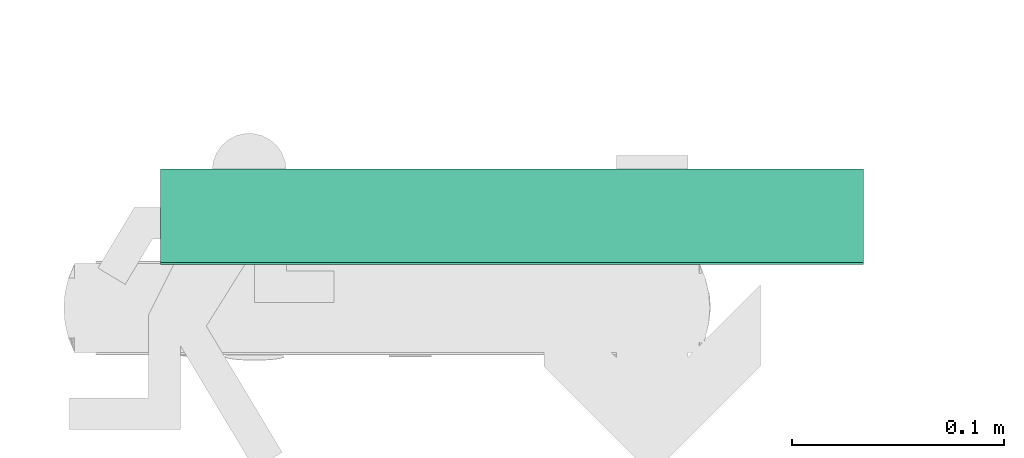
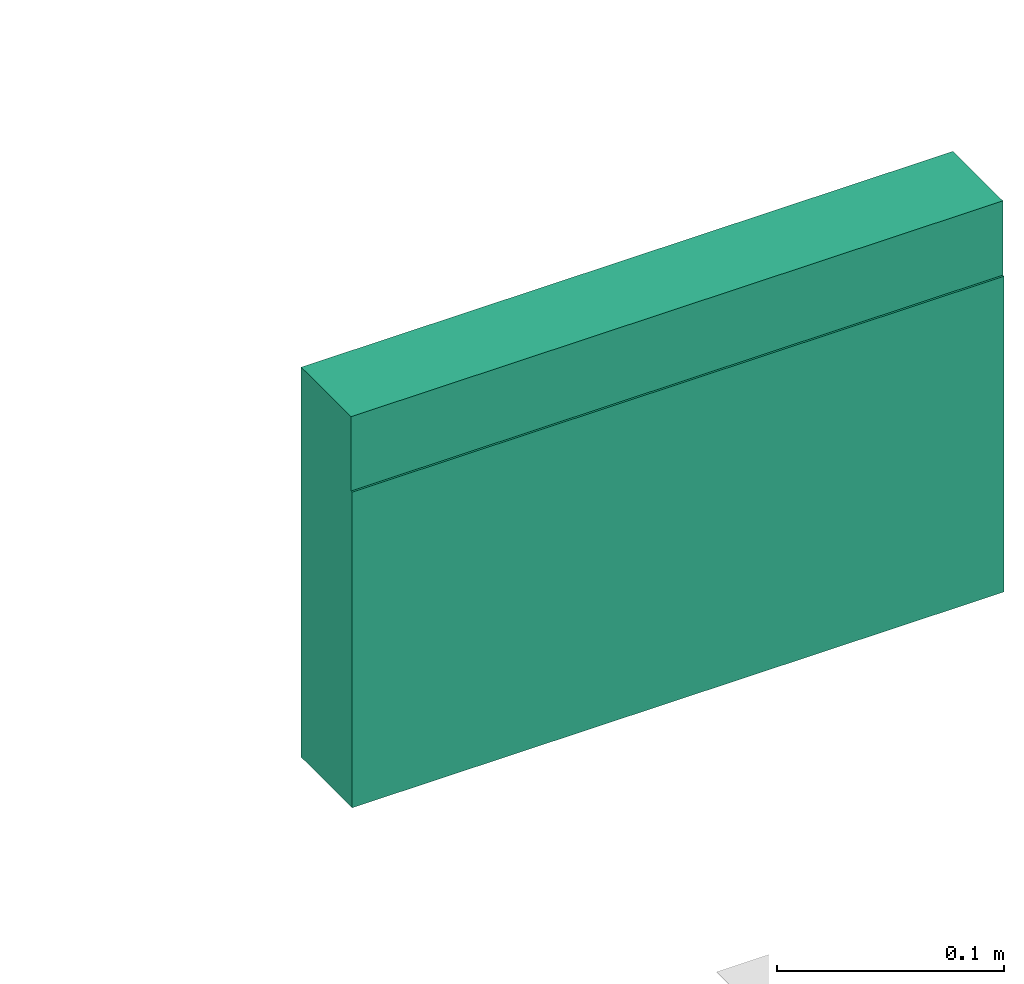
# One storey, part 1 of 2: 1 flow terminal.
"""IFC2X3 building model written with IfcOpenShell, lengths in millimetres."""

import ifcopenshell
import ifcopenshell.guid

model = None  # the IFC model being written
_history = None  # IfcOwnerHistory: only IFC2X3 demands one
_inside = {}  # id of a spatial element -> (the spatial element, [elements in it])
_under = {}  # id of a project, library or spatial element -> (it, [spatial elements below it])
_declared = {}  # id of a project -> (the project, [libraries it declares])
_typed = {}  # id of a type object -> (the type object, [elements of that type])
_made_of = {}  # id of a material, layer set ... -> (it, [elements and type objects made of it])


def new_model(schema):
    """Start an empty IFC model of exactly this schema.

    Asked for "IFC4X3", IfcOpenShell would pick the latest addendum, in which some entities
    have other attributes; the version numbers below select the first issue.
    IFC2X3 requires an IfcOwnerHistory on every rooted entity: one is made here for all.
    """
    global model, _history
    if schema == "IFC4X3":
        model = ifcopenshell.file(schema_version=(4, 3, 0, 0))
    else:
        model = ifcopenshell.file(schema=schema)
    _inside.clear()
    _under.clear()
    _declared.clear()
    _typed.clear()
    _made_of.clear()
    _history = None
    if model.schema == "IFC2X3":
        org = make("IfcOrganization", Name="unknown")
        user = make(
            "IfcPersonAndOrganization",
            ThePerson=make("IfcPerson", FamilyName="unknown"),
            TheOrganization=org,
        )
        app = make(
            "IfcApplication",
            ApplicationDeveloper=org,
            Version="unknown",
            ApplicationFullName="unknown",
            ApplicationIdentifier="unknown",
        )
        _history = make(
            "IfcOwnerHistory",
            OwningUser=user,
            OwningApplication=app,
            ChangeAction="ADDED",
            CreationDate=0,
        )
    return model


def make(cls, **values):
    """One entity of the class cls with the attributes given. An attribute that is None is left unset."""
    return model.create_entity(
        cls, **{name: value for name, value in values.items() if value is not None}
    )


def entity(cls, *values):
    """Any entity or typed value of the class cls, its attributes in the order of the schema. None: left unset."""
    e = model.create_entity(cls)
    for i, value in enumerate(values):
        if value is not None:
            e[i] = value
    return e


def rooted(cls, **values):
    """An entity with a GlobalId (a new one), such as an element, a storey or a relation."""
    return make(cls, GlobalId=ifcopenshell.guid.new(), OwnerHistory=_history, **values)


def si_unit(unit_type, name, prefix=None):
    """IfcSIUnit, for example si_unit("LENGTHUNIT", "METRE", prefix="MILLI")."""
    return make("IfcSIUnit", UnitType=unit_type, Prefix=prefix, Name=name)


def converted_unit(unit_type, name, factor, base, dimensions=None, offset=None):
    """IfcConversionBasedUnit, such as the inch: factor (a typed value) times the base unit."""
    return make(
        "IfcConversionBasedUnit"
        if offset is None
        else "IfcConversionBasedUnitWithOffset",
        ConversionOffset=offset,
        Dimensions=None
        if dimensions is None
        else entity("IfcDimensionalExponents", *dimensions),
        UnitType=unit_type,
        Name=name,
        ConversionFactor=make(
            "IfcMeasureWithUnit", ValueComponent=factor, UnitComponent=base
        ),
    )


def derived_unit(unit_type, elements):
    """IfcDerivedUnit: a product of units, each with its exponent."""
    return make(
        "IfcDerivedUnit",
        Elements=[
            make("IfcDerivedUnitElement", Unit=unit, Exponent=power)
            for unit, power in elements
        ],
        UnitType=unit_type,
    )


def assignment(units):
    """IfcUnitAssignment: the units of a project."""
    return None if units is None else make("IfcUnitAssignment", Units=units)


def point(xyz):
    """IfcCartesianPoint."""
    return None if xyz is None else make("IfcCartesianPoint", Coordinates=xyz)


def direction(xyz):
    """IfcDirection."""
    return None if xyz is None else make("IfcDirection", DirectionRatios=xyz)


def frame(location, z_axis=None, x_axis=None):
    """IfcAxis2Placement3D, a coordinate frame: its origin and axes. An axis left out is left unset."""
    return make(
        "IfcAxis2Placement3D",
        Location=point(location),
        Axis=direction(z_axis),
        RefDirection=direction(x_axis),
    )


def frame_2d(location, x_axis=None):
    """IfcAxis2Placement2D, a coordinate frame in the plane: its origin and x axis."""
    return make(
        "IfcAxis2Placement2D", Location=point(location), RefDirection=direction(x_axis)
    )


def origin():
    """The frame at (0, 0, 0) with its axes left unset."""
    return frame((0.0, 0.0, 0.0))


def origin_2d_with_axis():
    """The frame at (0, 0) in the plane with the x axis (1, 0) written out."""
    return frame_2d((0.0, 0.0), x_axis=(1.0, 0.0))


def place(relative_to, where):
    """IfcLocalPlacement: puts the frame where relative to a parent placement (None: the world)."""
    return make(
        "IfcLocalPlacement", PlacementRelTo=relative_to, RelativePlacement=where
    )


def context(
    kind, dimensions, precision=None, world=None, true_north=None, identifier=None
):
    """IfcGeometricRepresentationContext, for example the 3D "Model" context."""
    return make(
        "IfcGeometricRepresentationContext",
        ContextIdentifier=identifier,
        ContextType=kind,
        CoordinateSpaceDimension=dimensions,
        Precision=precision,
        WorldCoordinateSystem=world,
        TrueNorth=true_north,
    )


def subcontext(parent, identifier, kind, view, scale=None):
    """IfcGeometricRepresentationSubContext, for example "Body" below "Model"."""
    return make(
        "IfcGeometricRepresentationSubContext",
        ContextIdentifier=identifier,
        ContextType=kind,
        ParentContext=parent,
        TargetScale=scale,
        TargetView=view,
    )


def project(units=None, contexts=None):
    """IfcProject with its units and contexts."""
    return rooted(
        "IfcProject",
        Name="project",
        RepresentationContexts=contexts,
        UnitsInContext=assignment(units),
    )


def spatial(cls, under=None, at=None, **own):
    """A site, building, storey or space (cls), placed at a placement, below another one or the project."""
    s = rooted(cls, ObjectPlacement=at, **own)
    if under is not None:
        _under.setdefault(under.id(), (under, []))[1].append(s)
    return s


def polyline(points):
    """IfcPolyline through the points."""
    return make("IfcPolyline", Points=[point(p) for p in points])


def circle_curve(where, radius):
    """IfcCircle in the frame where."""
    return make("IfcCircle", Position=where, Radius=radius)


def parameter(value):
    """IfcParameterValue: where a trimmed curve begins or ends, as a parameter of its basis curve."""
    return model.create_entity("IfcParameterValue", value)


def trimmed(basis, trim1, trim2, sense, master):
    """IfcTrimmedCurve: the piece of a basis curve between two trims."""
    return make(
        "IfcTrimmedCurve",
        BasisCurve=basis,
        Trim1=trim1,
        Trim2=trim2,
        SenseAgreement=sense,
        MasterRepresentation=master,
    )


def segment(curve, same_sense, transition):
    """IfcCompositeCurveSegment."""
    return make(
        "IfcCompositeCurveSegment",
        Transition=transition,
        SameSense=same_sense,
        ParentCurve=curve,
    )


def composite_curve(segments, self_intersect=None):
    """IfcCompositeCurve: segments joined end to end."""
    return make("IfcCompositeCurve", Segments=segments, SelfIntersect=self_intersect)


def profile(cls, at=None, kind="AREA", **sizes):
    """A parametric profile (cls). Its sizes go by their IFC names, for example OverallWidth=200.0."""
    return make(cls, ProfileType=kind, Position=at, **sizes)


def rectangle(**sizes):
    """IfcRectangleProfileDef."""
    return profile("IfcRectangleProfileDef", **sizes)


def circle(**sizes):
    """IfcCircleProfileDef."""
    return profile("IfcCircleProfileDef", **sizes)


def outline(outer, holes=None, kind="AREA"):
    """IfcArbitraryClosedProfileDef: a profile drawn as a closed curve; with holes, ...WithVoids."""
    if holes is None:
        return make("IfcArbitraryClosedProfileDef", ProfileType=kind, OuterCurve=outer)
    return make(
        "IfcArbitraryProfileDefWithVoids",
        ProfileType=kind,
        OuterCurve=outer,
        InnerCurves=holes,
    )


def extrude(swept, where, along, depth):
    """IfcExtrudedAreaSolid: the profile swept, set in the frame where, extruded along a direction by depth."""
    return make(
        "IfcExtrudedAreaSolid",
        SweptArea=swept,
        Position=where,
        ExtrudedDirection=direction(along),
        Depth=depth,
    )


def shape(context_of_items, identifier, shape_type, items):
    """IfcShapeRepresentation: the items that make up one representation, for example the "Body"."""
    return make(
        "IfcShapeRepresentation",
        ContextOfItems=context_of_items,
        RepresentationIdentifier=identifier,
        RepresentationType=shape_type,
        Items=items,
    )


def source(mapping_origin, context_of_items, identifier, shape_type, items):
    """IfcRepresentationMap: a shape defined once, which mapped items show again and again."""
    return make(
        "IfcRepresentationMap",
        MappingOrigin=mapping_origin,
        MappedRepresentation=shape(context_of_items, identifier, shape_type, items),
    )


def transform(
    local_origin,
    x_axis=None,
    y_axis=None,
    z_axis=None,
    scale=None,
    scale2=None,
    scale3=None,
    uniform=True,
):
    """IfcCartesianTransformationOperator3D, or its non-uniform kind. x_axis, y_axis, z_axis: its Axis1, 2, 3."""
    if uniform:
        return make(
            "IfcCartesianTransformationOperator3D",
            Axis1=direction(x_axis),
            Axis2=direction(y_axis),
            LocalOrigin=point(local_origin),
            Scale=scale,
            Axis3=direction(z_axis),
        )
    return make(
        "IfcCartesianTransformationOperator3DnonUniform",
        Axis1=direction(x_axis),
        Axis2=direction(y_axis),
        LocalOrigin=point(local_origin),
        Scale=scale,
        Axis3=direction(z_axis),
        Scale2=scale2,
        Scale3=scale3,
    )


def mapped(mapping_source, mapping_target):
    """IfcMappedItem: shows the shape of a source again, moved by a transform."""
    return make(
        "IfcMappedItem", MappingSource=mapping_source, MappingTarget=mapping_target
    )


def material(Name=None, Category=None):
    """IfcMaterial."""
    return make("IfcMaterial", Name=Name, Category=Category)


def material_list(materials):
    """IfcMaterialList."""
    return make("IfcMaterialList", Materials=materials)


def made_of(thing, what):
    """Note that an element or type object is made of a material, layer set ...; save() writes the relation."""
    if what is not None:
        _made_of.setdefault(what.id(), (what, []))[1].append(thing)
    return thing


def type_object(cls, material=None, **own):
    """A type object (cls), such as IfcWallType, which elements share."""
    return made_of(rooted(cls, **own), material)


def element(
    cls,
    number,
    at=None,
    inside=None,
    cuts=None,
    type_object=None,
    material=None,
    context=None,
    identifier="Body",
    shape_type=None,
    held_by="IfcProductDefinitionShape",
    body=None,
    shapes=None,
    **own,
):
    """One element of the class cls, such as IfcWall. Its Tag is "e" and its number.

    at: its placement. inside: the storey or other place that contains it. cuts: it is an
    opening in that element (IfcRelVoidsElement). A single representation is given by context,
    identifier, shape_type and body (its items); several are given by shapes. held_by: the class
    of the entity that holds the representations. save() writes the other relations.
    """
    e = rooted(cls, Tag="e%d" % number, ObjectPlacement=at, **own)
    if body is not None:
        shapes = [shape(context, identifier, shape_type, body)]
    if shapes is not None:
        e.Representation = make(held_by, Representations=shapes)
    if inside is not None:
        _inside.setdefault(inside.id(), (inside, []))[1].append(e)
    if cuts is not None:
        rooted(
            "IfcRelVoidsElement", RelatingBuildingElement=cuts, RelatedOpeningElement=e
        )
    if type_object is not None:
        _typed.setdefault(type_object.id(), (type_object, []))[1].append(e)
    return made_of(e, material)


def aggregate(whole, parts):
    """IfcRelAggregates: a whole, such as a stair, and the parts it consists of."""
    return rooted("IfcRelAggregates", RelatingObject=whole, RelatedObjects=parts)


def save(model, path):
    """Write the relations noted so far, then the file.

    IfcRelAggregates (storeys below a building ...), IfcRelContainedInSpatialStructure (elements
    in a storey), IfcRelDefinesByType, IfcRelAssociatesMaterial and IfcRelDeclares: one each for
    every whole, place, type object, material and project.
    """
    for whole, parts in _under.values():
        aggregate(whole, parts)
    for where, things in _inside.values():
        rooted(
            "IfcRelContainedInSpatialStructure",
            RelatedElements=things,
            RelatingStructure=where,
        )
    for kind, things in _typed.values():
        rooted("IfcRelDefinesByType", RelatedObjects=things, RelatingType=kind)
    for what, things in _made_of.values():
        rooted("IfcRelAssociatesMaterial", RelatedObjects=things, RelatingMaterial=what)
    for by, libraries in _declared.values():
        rooted("IfcRelDeclares", RelatingContext=by, RelatedDefinitions=libraries)
    model.write(path)


model = new_model("IFC2X3")

# Units and contexts
model_context = context("Model", 3, precision=0.01, world=frame((0.0, 4.29681676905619e-09, 0.0)), true_north=direction((4.01073788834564e-13, 1.0)))
plan_context = context("Plan", 3, precision=0.01, world=frame((0.0, 4.29681676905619e-09, 0.0)), true_north=direction((4.01073788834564e-13, 1.0)))
body_context = subcontext(model_context, "Body", "Model", "MODEL_VIEW")
ifc_project = project(units=[converted_unit("PLANEANGLEUNIT", "DEGREE", entity("IfcPositiveLengthMeasure", 0.0174532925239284), si_unit("PLANEANGLEUNIT", "RADIAN"), dimensions=[0, 0, 0, 0, 0, 0, 0]), si_unit("AREAUNIT", "SQUARE_METRE"), si_unit("LENGTHUNIT", "METRE", prefix="MILLI"), si_unit("MASSUNIT", "GRAM", prefix="KILO"), si_unit("POWERUNIT", "WATT"), si_unit("PRESSUREUNIT", "PASCAL", prefix="KILO"), si_unit("FORCEUNIT", "NEWTON", prefix="KILO"), si_unit("ELECTRICVOLTAGEUNIT", "VOLT"), si_unit("ELECTRICCURRENTUNIT", "AMPERE"), si_unit("THERMODYNAMICTEMPERATUREUNIT", "DEGREE_CELSIUS"), si_unit("TIMEUNIT", "SECOND"), si_unit("VOLUMEUNIT", "CUBIC_METRE"), derived_unit("LINEARVELOCITYUNIT", [(si_unit("LENGTHUNIT", "METRE"), 1), (si_unit("TIMEUNIT", "SECOND"), -1)]), derived_unit("VOLUMETRICFLOWRATEUNIT", [(si_unit("VOLUMEUNIT", "CUBIC_METRE"), 1), (si_unit("TIMEUNIT", "SECOND"), -1)]), derived_unit("THERMALTRANSMITTANCEUNIT", [(si_unit("POWERUNIT", "WATT"), 1), (si_unit("THERMODYNAMICTEMPERATUREUNIT", "KELVIN"), -1), (si_unit("AREAUNIT", "SQUARE_METRE"), -1)]), derived_unit("SOUNDPRESSUREUNIT", [(si_unit("PRESSUREUNIT", "PASCAL"), 1)])], contexts=[model_context, plan_context])

# Site, building, storey
site_placement = place(None, frame((0.0, -4.29681676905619e-09, 0.0), z_axis=(0.0, 0.0, 1.0), x_axis=(1.0, 0.0, 0.0)))
site = spatial("IfcSite", under=ifc_project, at=site_placement, Name="Default", CompositionType="ELEMENT")
building_placement = place(site_placement, frame((0.0, 4.29681676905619e-09, 0.0), z_axis=(0.0, 0.0, 1.0), x_axis=(1.0, 0.0, 0.0)))
building = spatial("IfcBuilding", under=site, at=building_placement, CompositionType="ELEMENT")
storey_placement = place(building_placement, frame((0.0, 0.0, 210900.0), z_axis=(0.0, 0.0, 1.0), x_axis=(1.0, 0.0, 0.0)))
storey = spatial("IfcBuildingStorey", under=building, at=storey_placement, Name="Nivå F", CompositionType="ELEMENT", Elevation=210900.0)

# Flow terminal
ifc_material_1 = material(Name="Light Source Hvit")
ifc_material_2 = material(Name="Light Source Grønn")
ifc_material_3 = material(Name="<Unnamed>")
ifc_material_list = material_list([ifc_material_1, ifc_material_2, ifc_material_3])
light_fixture_type = type_object("IfcLightFixtureType", Name="IB7323 Markeringslys ensidig 32 meter leseavstand vegg:IB7323 Zumtobel Crossign 160 AB LED NDA", PredefinedType="NOTDEFINED", material=ifc_material_list)
shared_shape = source(origin(), body_context, "Body", "SweptSolid", [
    extrude(outline(polyline([(-9.94071838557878, -40.8929275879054), (20.6582999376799, -40.8929275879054), (61.5512275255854, 0.0), (20.6582999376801, 40.8929275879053), (-9.94071838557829, 40.8929275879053), (17.4135315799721, 13.5386776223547), (-58.9067268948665, 13.5386776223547), (-58.9067268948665, -13.5386776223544), (17.4135315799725, -13.5386776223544), (-9.94071838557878, -40.8929275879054)])), frame((-68.0, 43.0, -18.677749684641), z_axis=(0.0, 1.0, 0.0), x_axis=(0.0, 0.0, -1.0)), (0.0, 0.0, 1.0), 2.0),
    extrude(outline(composite_curve([segment(trimmed(circle_curve(origin_2d_with_axis(), 70.0), [parameter(180.0)], [parameter(360.0)], True, "PARAMETER"), True, "CONTINUOUS"), segment(trimmed(circle_curve(origin_2d_with_axis(), 70.0), [parameter(0.0)], [parameter(180.0)], True, "PARAMETER"), True, "CONTINUOUS")], self_intersect=False), holes=[polyline([(60.2289772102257, 0.0), (19.3360496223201, -40.8929275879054), (-11.2629687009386, -40.8929275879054), (16.0912812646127, -13.5386776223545), (-60.2289772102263, -13.5386776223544), (-60.2289772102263, 13.5386776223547), (16.0912812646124, 13.5386776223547), (-11.262968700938, 40.8929275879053), (19.3360496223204, 40.8929275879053), (60.2289772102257, 0.0)])]), frame((-68.0, 43.0, -20.0), z_axis=(0.0, 1.0, 0.0), x_axis=(0.0, 0.0, -1.0)), (0.0, 0.0, 1.0), 2.0),
    extrude(outline(polyline([(-85.0, -166.0), (85.0, -166.0), (85.0, 166.0), (-85.0, 166.0), (-85.0, -166.0)]), holes=[polyline([(-46.0, 79.0), (-46.0, 121.0), (-34.0, 121.0), (-34.0, 91.0), (-2.58359213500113, 91.0), (26.0, 76.7082039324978), (26.0, 89.6028577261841), (8.91302546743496, 99.8550424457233), (15.0869745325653, 110.144957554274), (38.0, 96.3971422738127), (38.0, 57.0), (36.9923017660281, 53.67179882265), (27.2111025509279, 39.0), (14.0, 39.0), (14.0, 21.0), (2.0, 21.0), (2.0, 51.0), (22.2792226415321, 51.0), (-6.84828493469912, 69.2046922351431), (-54.5419187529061, 40.5474658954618), (-60.8224348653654, 51.0), (-14.2226093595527, 79.0), (-46.0, 79.0)]), composite_curve([segment(trimmed(circle_curve(frame_2d((52.0, 53.0), x_axis=(0.0, -1.0)), 14.0), [parameter(3.05333249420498e-13)], [parameter(180.0)], True, "PARAMETER"), False, "CONTINUOUS"), segment(trimmed(circle_curve(frame_2d((52.0, 53.0), x_axis=(0.0, -1.0)), 14.0), [parameter(180.0)], [parameter(360.0)], True, "PARAMETER"), False, "CONTINUOUS")], self_intersect=False), composite_curve([segment(trimmed(circle_curve(frame_2d((0.0, -68.0), x_axis=(0.0, -1.0)), 70.0), [parameter(3.05333249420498e-13)], [parameter(180.0)], True, "PARAMETER"), False, "CONTINUOUS"), segment(trimmed(circle_curve(frame_2d((0.0, -68.0), x_axis=(0.0, -1.0)), 70.0), [parameter(180.0)], [parameter(0.0)], True, "PARAMETER"), False, "CONTINUOUS")], self_intersect=False)]), frame((0.0, 43.0, -20.0), z_axis=(0.0, 1.0, 0.0), x_axis=(0.0, 0.0, 1.0)), (0.0, 0.0, 1.0), 2.0),
    extrude(circle(Radius=14.0, at=frame_2d((4.08568319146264e-29, -1.26898491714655e-14), x_axis=(1.0, 0.0))), frame((53.0, 43.0, 32.0), z_axis=(0.0, 1.0, 0.0), x_axis=(-1.0, 0.0, 0.0)), (0.0, 0.0, 1.0), 2.0),
    extrude(outline(polyline([(32.7028994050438, -50.6303563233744), (44.7028994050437, -50.6303563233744), (44.7028994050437, -8.63035632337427), (12.9255087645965, -8.63035632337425), (59.5253342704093, 19.3696436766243), (53.24481815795, 29.8221777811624), (5.55118433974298, 1.16495144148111), (-23.5763232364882, 19.3696436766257), (-3.29710059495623, 19.3696436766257), (-3.29710059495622, 49.3696436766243), (-15.2971005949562, 49.3696436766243), (-15.2971005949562, 31.3696436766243), (-28.508203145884, 31.3696436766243), (-38.2894023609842, 16.6978448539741), (-39.2971005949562, 13.3696436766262), (-39.2971005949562, -26.0274985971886), (-16.3840751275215, -39.7753138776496), (-10.2101260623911, -29.4853987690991), (-27.2971005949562, -19.2332140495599), (-27.2971005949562, -6.33856025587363), (1.28649154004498, -20.6303563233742), (32.7028994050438, -20.6303563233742), (32.7028994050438, -50.6303563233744)])), frame((70.3696436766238, 43.0, -21.2971005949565), z_axis=(0.0, 1.0, 0.0), x_axis=(0.0, 0.0, -1.0)), (0.0, 0.0, 1.0), 2.0),
    extrude(rectangle(XDim=332.0, YDim=44.0, at=frame_2d((0.0, 1.77635683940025e-15), x_axis=(1.0, 0.0))), frame((0.0, 22.0, -105.0)), (0.0, 0.0, 1.0), 210.0),
])
flow_terminal_placement = place(storey_placement, frame((728511.462500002, 434901.999999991, 2500.0), z_axis=(0.0, 0.0, 1.0), x_axis=(-1.0, 0.0, 0.0)))
element("IfcFlowTerminal", 1, at=flow_terminal_placement, inside=storey, type_object=light_fixture_type, material=ifc_material_list, Name="IB7323 Markeringslys ensidig 32 meter leseavstand vegg:IB7323 Zumtobel Crossign 160 AB LED NDA", ObjectType="IB7323 Markeringslys ensidig 32 meter leseavstand vegg:IB7323 Zumtobel Crossign 160 AB LED NDA", context=body_context, shape_type="MappedRepresentation", body=[
    mapped(shared_shape, transform((0.0, 0.0, 0.0), scale=1.0)),
])

save(model, "model.ifc")
